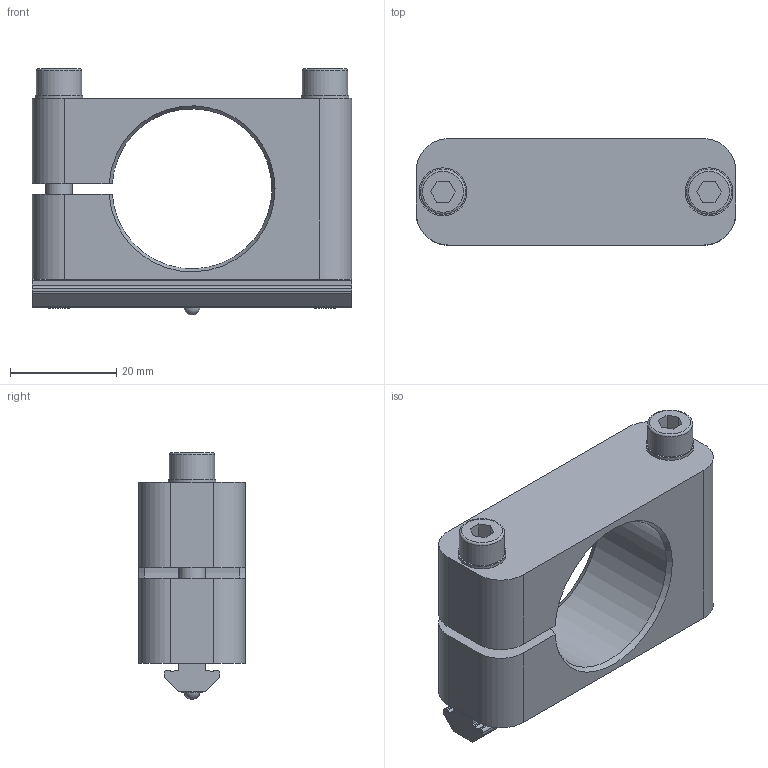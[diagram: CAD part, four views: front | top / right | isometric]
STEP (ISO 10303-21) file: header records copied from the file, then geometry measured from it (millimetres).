
FILE_DESCRIPTION((''),'2;1');
FILE_NAME('W:\Technik\Konstruktion\CAD-Daten\EOAT\GR02_\GR02.024\GR02.024.stp','2010-02-24T07:36:50',('rkob'),(''),'Autodesk Inventor 2009','Autodesk Inventor 2009','');
FILE_SCHEMA(('AUTOMOTIVE_DESIGN { 1 0 10303 214 1 1 1 1 }'));
Length unit declared in the file: millimetre
Products named in the file (5): GR02; GR01; DIN912-M5x40; Schnorr S5
Assembly tree (6 placements, depth 2):
  GR02
    GR02
    GR01
    DIN912-M5x40  x2
    Schnorr S5  x2
Bounding box: 60 x 20 x 46.39 mm (x, y, z)
Volume: 27760.1 mm3; surface area: 13137.5 mm2
Topology: 6 solids, 6 shells, 90 faces, 222 edges, 147 vertices
Faces by surface type: plane 47, cylinder 34, cone 4, bspline 2, torus 2, sphere 1
Full cylindrical faces by diameter (mm): 5 x2, 5.3 x2, 5.5 x3, 8.5 x2, 9 x2
Entity records: 2336 total; most frequent: CARTESIAN_POINT 417, DIRECTION 398, ORIENTED_EDGE 342, EDGE_CURVE 171, AXIS2_PLACEMENT_3D 150, VERTEX_POINT 121, EDGE_LOOP 98, VECTOR 98
